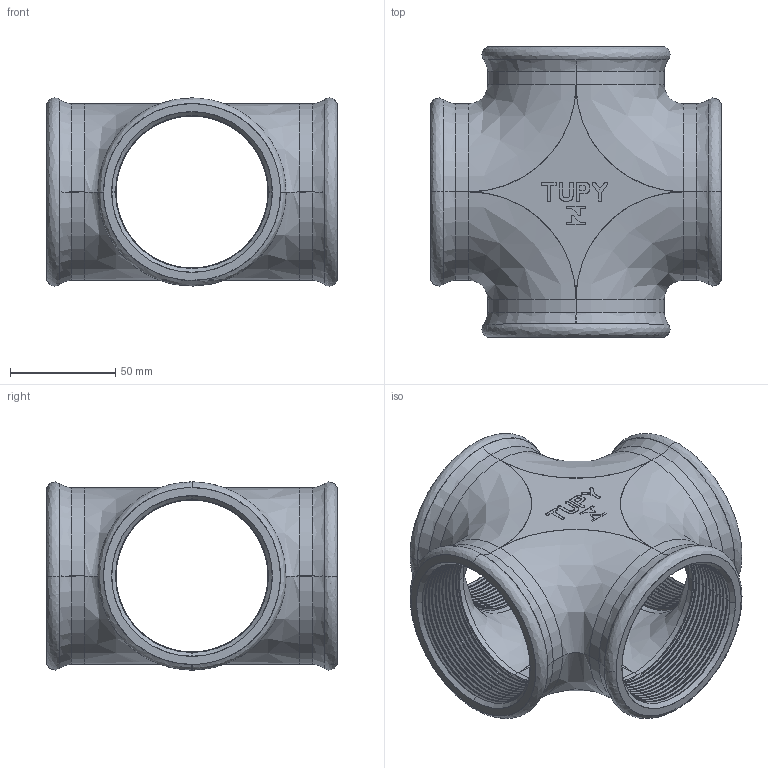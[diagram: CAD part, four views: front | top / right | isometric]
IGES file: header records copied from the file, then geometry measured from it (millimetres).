
Start section: SolidWorks IGES file using analytic representation for surfaces
Global section: file name: C:\Users\Joel Rosa\Desktop\Tubulação\12-18-OK\12-18-011.IGS; native system: SolidWorks 2011; preprocessor: SolidWorks 2011; author: Joel Rosa; date: 121207.003425; units: millimetre
Bounding box: 138 x 138 x 89.4 mm (x, y, z)
Surface area: 109734.8 mm2 (no closed solid volume)
Topology: 0 solids, 0 shells, 632 faces, 4702 edges, 4702 vertices
Faces by surface type: bspline 414, revolution 218
